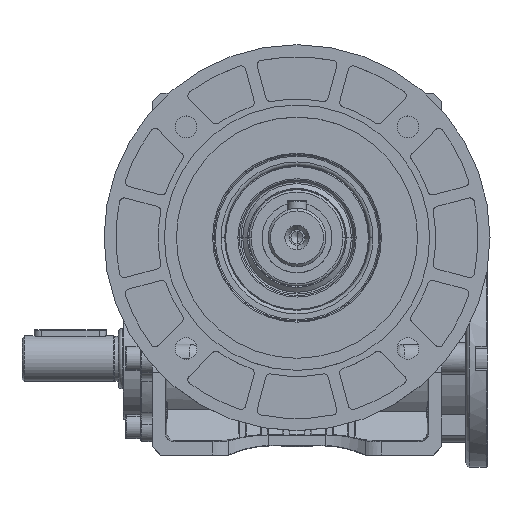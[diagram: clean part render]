
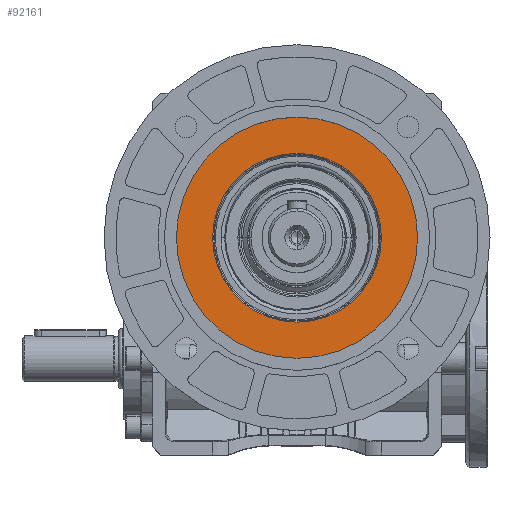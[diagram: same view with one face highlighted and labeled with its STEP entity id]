
A CAD part, top view. The second image highlights one B-rep face of the part: STEP entity #92161.
In plain terms, the highlighted planar face has unit normal (0, 0, 1).
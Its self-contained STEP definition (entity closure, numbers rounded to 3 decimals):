
#3099 = DIRECTION ( 'NONE',  ( 0., 0., -1. ) ) ;
#5121 = CARTESIAN_POINT ( 'NONE',  ( 0., 0., 96. ) ) ;
#6278 = CIRCLE ( 'NONE', #70971, 50. ) ;
#6325 = AXIS2_PLACEMENT_3D ( 'NONE', #99281, #3099, #90413 ) ;
#8475 = VERTEX_POINT ( 'NONE', #54451 ) ;
#8636 = VERTEX_POINT ( 'NONE', #30313 ) ;
#10729 = AXIS2_PLACEMENT_3D ( 'NONE', #49844, #31464, #47947 ) ;
#11182 = EDGE_CURVE ( 'NONE', #8636, #8475, #20893, .T. ) ;
#15199 = DIRECTION ( 'NONE',  ( 1., 0., 0. ) ) ;
#17013 = VERTEX_POINT ( 'NONE', #90461 ) ;
#19733 = ORIENTED_EDGE ( 'NONE', *, *, #11182, .T. ) ;
#20893 = CIRCLE ( 'NONE', #115878, 35. ) ;
#21414 = AXIS2_PLACEMENT_3D ( 'NONE', #40314, #78986, #117582 ) ;
#22462 = CIRCLE ( 'NONE', #6325, 35. ) ;
#29713 = DIRECTION ( 'NONE',  ( 1., 0., 0. ) ) ;
#30313 = CARTESIAN_POINT ( 'NONE',  ( 35., 0., 96. ) ) ;
#31464 = DIRECTION ( 'NONE',  ( 0., 0., -1. ) ) ;
#37474 = EDGE_LOOP ( 'NONE', ( #65455, #109083 ) ) ;
#40314 = CARTESIAN_POINT ( 'NONE',  ( 0., 0., 96. ) ) ;
#45626 = EDGE_CURVE ( 'NONE', #55209, #17013, #76049, .T. ) ;
#47947 = DIRECTION ( 'NONE',  ( 1., 0., 0. ) ) ;
#48488 = EDGE_LOOP ( 'NONE', ( #19733, #94619 ) ) ;
#49844 = CARTESIAN_POINT ( 'NONE',  ( 0., -50., 96. ) ) ;
#53824 = EDGE_CURVE ( 'NONE', #17013, #55209, #6278, .T. ) ;
#54451 = CARTESIAN_POINT ( 'NONE',  ( -35., 0., 96. ) ) ;
#55209 = VERTEX_POINT ( 'NONE', #85985 ) ;
#65455 = ORIENTED_EDGE ( 'NONE', *, *, #45626, .F. ) ;
#70379 = EDGE_CURVE ( 'NONE', #8475, #8636, #22462, .T. ) ;
#70971 = AXIS2_PLACEMENT_3D ( 'NONE', #96857, #117123, #29713 ) ;
#76049 = CIRCLE ( 'NONE', #21414, 50. ) ;
#78403 = PLANE ( 'NONE',  #10729 ) ;
#78986 = DIRECTION ( 'NONE',  ( 0., 0., -1. ) ) ;
#85985 = CARTESIAN_POINT ( 'NONE',  ( 50., 0., 96. ) ) ;
#86614 = FACE_BOUND ( 'NONE', #48488, .T. ) ;
#90413 = DIRECTION ( 'NONE',  ( 1., 0., 0. ) ) ;
#90461 = CARTESIAN_POINT ( 'NONE',  ( -50., 0., 96. ) ) ;
#92161 = ADVANCED_FACE ( 'NONE', ( #98597, #86614 ), #78403, .F. ) ;
#94619 = ORIENTED_EDGE ( 'NONE', *, *, #70379, .T. ) ;
#96857 = CARTESIAN_POINT ( 'NONE',  ( 0., 0., 96. ) ) ;
#98597 = FACE_OUTER_BOUND ( 'NONE', #37474, .T. ) ;
#99281 = CARTESIAN_POINT ( 'NONE',  ( 0., 0., 96. ) ) ;
#109083 = ORIENTED_EDGE ( 'NONE', *, *, #53824, .F. ) ;
#115878 = AXIS2_PLACEMENT_3D ( 'NONE', #5121, #119088, #15199 ) ;
#117123 = DIRECTION ( 'NONE',  ( 0., 0., -1. ) ) ;
#117582 = DIRECTION ( 'NONE',  ( 1., 0., 0. ) ) ;
#119088 = DIRECTION ( 'NONE',  ( 0., 0., -1. ) ) ;
